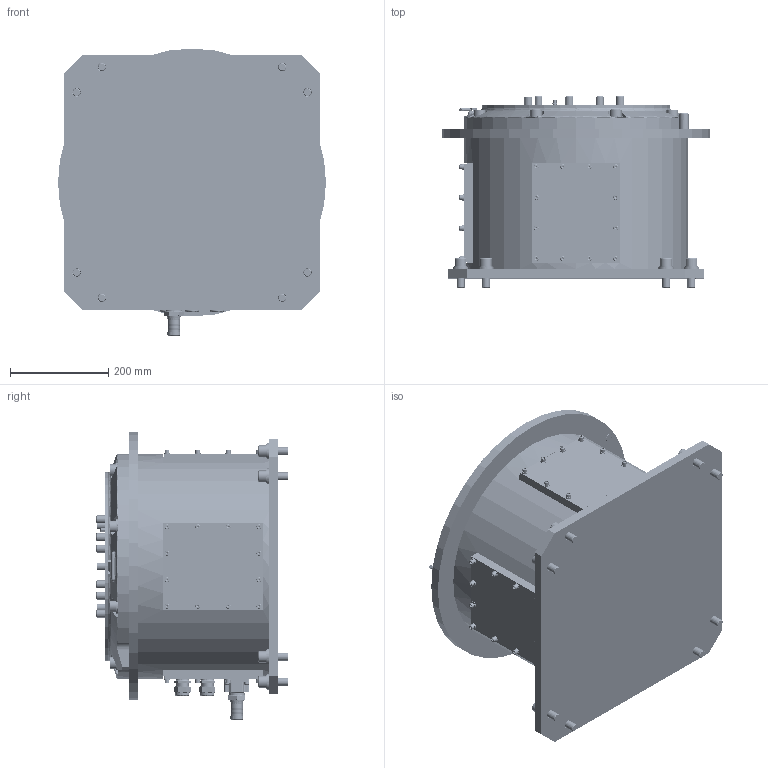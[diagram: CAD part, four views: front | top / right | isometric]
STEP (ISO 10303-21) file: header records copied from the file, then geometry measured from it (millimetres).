
FILE_DESCRIPTION (( 'STEP AP214' ), '1' );
FILE_NAME ('p50ib base.STEP', '2021-02-25T20:54:32', ( '' ), ( '' ), 'SwSTEP 2.0', 'SolidWorks 2019', '' );
FILE_SCHEMA (( 'AUTOMOTIVE_DESIGN' ));
Length unit declared in the file: inch
Products named in the file (25): Single_Battery_Enclosure; Socket Head Cap Screw_AM_B18.3.1M - 6 x 1.0 x 25 Hex SHCS -- 25NHXZ.P.; Curved Spring Lock Washer_DIN_Spring washer DIN 128 - A16Z.P.; EE-5404-249; EE-5404-247; 200706M02000_Default_As Machined_; EO-9999-708-001; 200706M02003; 200706M02005; Part1^200706A02001; 53515K59; 200706A02002; Battery_Mount; Flat Washer Narrow_AM_B18.22M - Plain washer, 6 mm, narrowZ.P.; Socket Head Cap Screw_AM_B18.3.1M - 16 x 2.0 x 45 Hex SHCS -- 45NHXZ.P.; Battery_Enclosure; Socket Head Cap Screw_AM_B18.3.1M - 6 x 1.0 x 20 Hex SHCS -- 20NHXZ.P.; 7529K270_7529K27; BatteryFuseHolder; 200706M02004; 97042A824_97042A824; Copy of Copy of P-50iB OPTIONAL PEDESTAL PLATE ASM^200706A02000; p50ib base; Curved Spring Lock Washer_DIN_Spring washer DIN 128 - A6Z.P.; Flat Washer Narrow_AM_B18.22M - Plain washer, 16 mm, narrowZ.P.
Assembly tree (163 placements, depth 3):
  p50ib base
    200706M02000_Default_As Machined_
    200706M02004  x3
    200706M02003
    53515K59
    200706M02005
    Curved Spring Lock Washer_DIN_Spring washer DIN 128 - A6Z.P.  x36
    Flat Washer Narrow_AM_B18.22M - Plain washer, 6 mm, narrowZ.P.  x36
    Socket Head Cap Screw_AM_B18.3.1M - 6 x 1.0 x 20 Hex SHCS -- 20NHXZ.P.  x36
    Socket Head Cap Screw_AM_B18.3.1M - 6 x 1.0 x 25 Hex SHCS -- 25NHXZ.P.  x4
    Socket Head Cap Screw_AM_B18.3.1M - 16 x 2.0 x 45 Hex SHCS -- 45NHXZ.P.  x8
    Flat Washer Narrow_AM_B18.22M - Plain washer, 16 mm, narrowZ.P.  x8
    Curved Spring Lock Washer_DIN_Spring washer DIN 128 - A16Z.P.  x8
    97042A824_97042A824  x3
    200706A02002
      BatteryFuseHolder
      Single_Battery_Enclosure
      Battery_Mount
      Battery_Enclosure
      EE-5404-249
      EE-5404-247
    EO-9999-708-001
    Part1^200706A02001  x2
    7529K270_7529K27  x6
    Copy of Copy of P-50iB OPTIONAL PEDESTAL PLATE ASM^200706A02000
Bounding box: 546.1 x 391.45 x 584.86 mm (x, y, z)
Volume: 15622857.8 mm3; surface area: 3108153.9 mm2
Topology: 191 solids, 289 shells, 5787 faces, 15080 edges, 9951 vertices
Faces by surface type: plane 2962, cylinder 1327, bspline 829, cone 669
Entity records: 203340 total; most frequent: CARTESIAN_POINT 76930, ORIENTED_EDGE 18433, DIRECTION 16339, EDGE_CURVE 9970, VERTEX_POINT 6872, LINE 6145, VECTOR 6145, AXIS2_PLACEMENT_3D 5097
